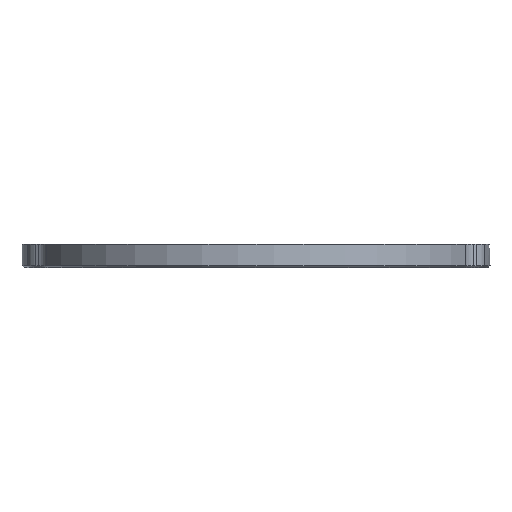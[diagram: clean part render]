
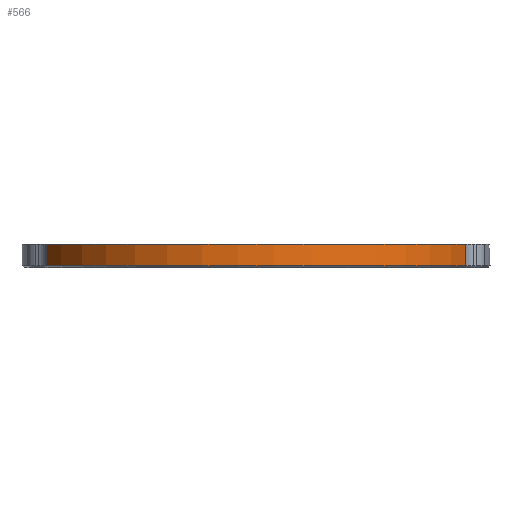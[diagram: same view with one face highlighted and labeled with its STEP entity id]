
A CAD part, front view. The second image highlights one B-rep face of the part: STEP entity #566.
In plain terms, the highlighted cylindrical face has radius 57.15 mm (diameter 114.3 mm), a partial arc.
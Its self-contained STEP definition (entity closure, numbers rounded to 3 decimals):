
#13 = EDGE_LOOP ( 'NONE', ( #244, #1924, #36, #159 ) ) ;
#23 = DIRECTION ( 'NONE',  ( 0., 0., 1. ) ) ;
#36 = ORIENTED_EDGE ( 'NONE', *, *, #1443, .T. ) ;
#52 = EDGE_CURVE ( 'NONE', #970, #2535, #954, .T. ) ;
#97 = CARTESIAN_POINT ( 'NONE',  ( -53.872, -19.077, 0.5 ) ) ;
#159 = ORIENTED_EDGE ( 'NONE', *, *, #52, .F. ) ;
#219 = AXIS2_PLACEMENT_3D ( 'NONE', #426, #1237, #2259 ) ;
#244 = ORIENTED_EDGE ( 'NONE', *, *, #2443, .T. ) ;
#247 = DIRECTION ( 'NONE',  ( 0., 0., -1. ) ) ;
#252 = FACE_OUTER_BOUND ( 'NONE', #13, .T. ) ;
#348 = CYLINDRICAL_SURFACE ( 'NONE', #813, 57.15 ) ;
#426 = CARTESIAN_POINT ( 'NONE',  ( 0., 0., 0.5 ) ) ;
#452 = DIRECTION ( 'NONE',  ( -1., 0., 0. ) ) ;
#459 = CARTESIAN_POINT ( 'NONE',  ( -53.872, -19.077, 6. ) ) ;
#463 = VERTEX_POINT ( 'NONE', #2394 ) ;
#479 = DIRECTION ( 'NONE',  ( 0., 0., -1. ) ) ;
#563 = CARTESIAN_POINT ( 'NONE',  ( 53.872, -19.077, 6. ) ) ;
#566 = ADVANCED_FACE ( 'NONE', ( #252 ), #348, .T. ) ;
#615 = EDGE_CURVE ( 'NONE', #1788, #463, #1962, .T. ) ;
#813 = AXIS2_PLACEMENT_3D ( 'NONE', #1430, #247, #452 ) ;
#841 = CARTESIAN_POINT ( 'NONE',  ( 0., 0., 6. ) ) ;
#954 = CIRCLE ( 'NONE', #1696, 57.15 ) ;
#963 = VECTOR ( 'NONE', #1000, 1000. ) ;
#970 = VERTEX_POINT ( 'NONE', #1220 ) ;
#985 = LINE ( 'NONE', #459, #1535 ) ;
#1000 = DIRECTION ( 'NONE',  ( 0., 0., 1. ) ) ;
#1220 = CARTESIAN_POINT ( 'NONE',  ( -53.872, -19.077, 6. ) ) ;
#1237 = DIRECTION ( 'NONE',  ( 0., 0., 1. ) ) ;
#1430 = CARTESIAN_POINT ( 'NONE',  ( 0., 0., 6. ) ) ;
#1443 = EDGE_CURVE ( 'NONE', #463, #2535, #1698, .T. ) ;
#1485 = CARTESIAN_POINT ( 'NONE',  ( 53.872, -19.077, 6. ) ) ;
#1535 = VECTOR ( 'NONE', #479, 1000. ) ;
#1696 = AXIS2_PLACEMENT_3D ( 'NONE', #841, #23, #2264 ) ;
#1698 = LINE ( 'NONE', #563, #963 ) ;
#1788 = VERTEX_POINT ( 'NONE', #97 ) ;
#1924 = ORIENTED_EDGE ( 'NONE', *, *, #615, .T. ) ;
#1962 = CIRCLE ( 'NONE', #219, 57.15 ) ;
#2259 = DIRECTION ( 'NONE',  ( 1., 0., 0. ) ) ;
#2264 = DIRECTION ( 'NONE',  ( 1., 0., 0. ) ) ;
#2394 = CARTESIAN_POINT ( 'NONE',  ( 53.872, -19.077, 0.5 ) ) ;
#2443 = EDGE_CURVE ( 'NONE', #970, #1788, #985, .T. ) ;
#2535 = VERTEX_POINT ( 'NONE', #1485 ) ;
